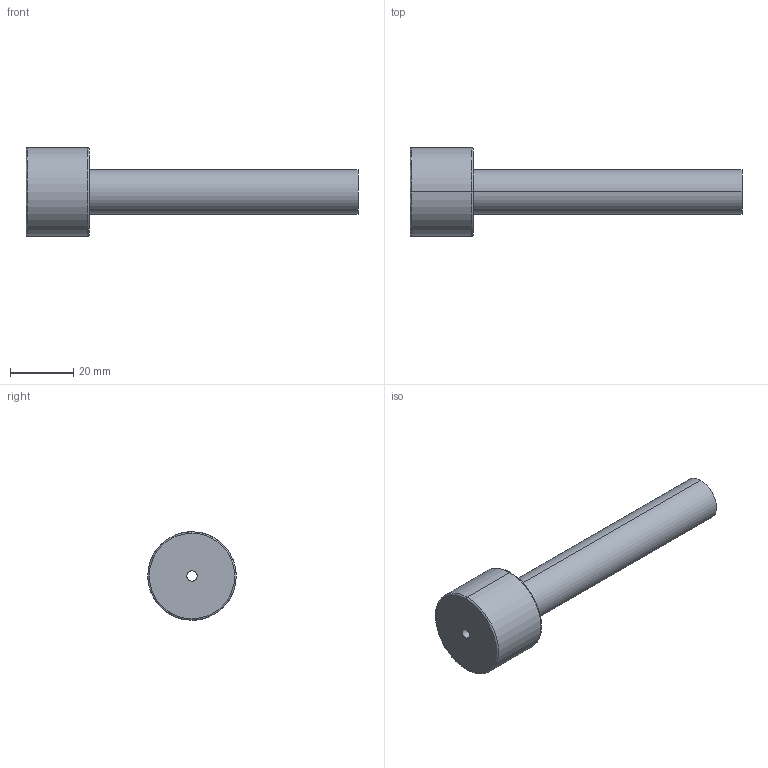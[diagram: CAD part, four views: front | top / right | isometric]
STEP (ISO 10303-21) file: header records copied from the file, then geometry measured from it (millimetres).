
FILE_DESCRIPTION(('CATIA V5 STEP Exchange'),'2;1');
FILE_NAME('C:\Users\Utente\Desktop\IO LAVORO\3D X SITO CF\X SITO\PLASTICA\3D files 367\367-14X105.stp','2021-03-24T15:12:41+00:00',('none'),('none'),'CATIA Version 5 Release 20 GA (IN-10)','CATIA V5 STEP AP203','none');
FILE_SCHEMA(('CONFIG_CONTROL_DESIGN'));
Length unit declared in the file: millimetre
Products named in the file (1): 367-14X105
Bounding box: 105 x 28 x 28 mm (x, y, z)
Volume: 22164.6 mm3; surface area: 8618.2 mm2
Topology: 1 solids, 1 shells, 13 faces, 42 edges, 32 vertices
Faces by surface type: torus 4, cylinder 4, plane 3, cone 2
Entity records: 608 total; most frequent: CARTESIAN_POINT 194, ORIENTED_EDGE 84, DIRECTION 60, AXIS2_PLACEMENT_3D 42, EDGE_CURVE 42, VERTEX_POINT 32, CIRCLE 28, EDGE_LOOP 16
